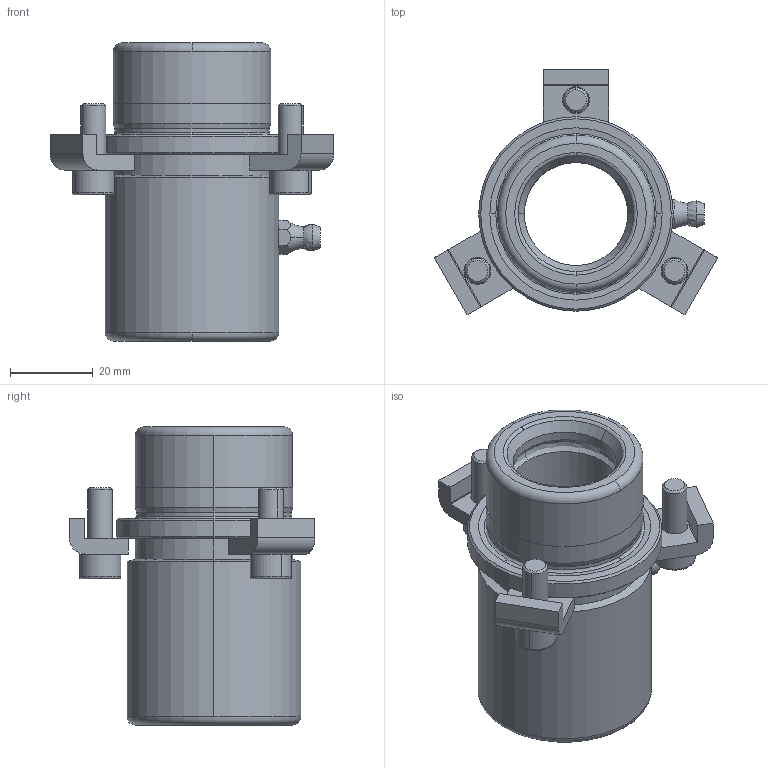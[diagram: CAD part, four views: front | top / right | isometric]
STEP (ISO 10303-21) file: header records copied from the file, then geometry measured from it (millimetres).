
FILE_DESCRIPTION((''),'2;1');
FILE_NAME('B10_025_050.stp','2008-11-04T16:53:03',(''),(''),'Mechanical Desktop 2009','Mechanical Desktop 2009',', , ');
FILE_SCHEMA(('CONFIG_CONTROL_DESIGN'));
Length unit declared in the file: millimetre
Products named in the file (2): Product; blmdl1
Assembly tree (1 placements, depth 2):
  Product
    blmdl1
Bounding box: 68.57 x 59.38 x 72 mm (x, y, z)
Volume: 63662.3 mm3; surface area: 22586.6 mm2
Topology: 8 solids, 8 shells, 170 faces, 427 edges, 280 vertices
Faces by surface type: plane 68, cylinder 48, cone 22, bspline 16, torus 16
Entity records: 6342 total; most frequent: CARTESIAN_POINT 2052, DIRECTION 933, ORIENTED_EDGE 846, EDGE_CURVE 423, AXIS2_PLACEMENT_3D 371, VERTEX_POINT 278, CIRCLE 215, VECTOR 191
